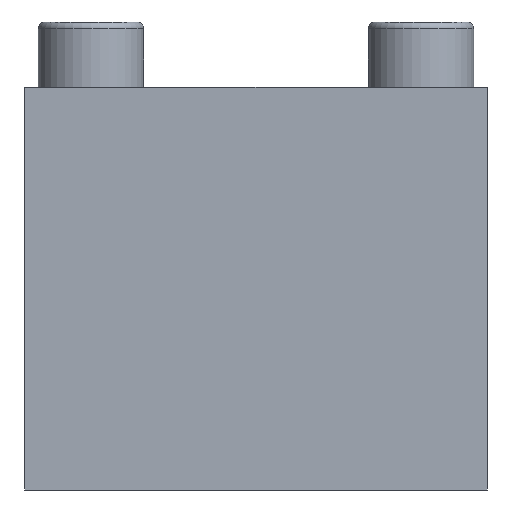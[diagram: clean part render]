
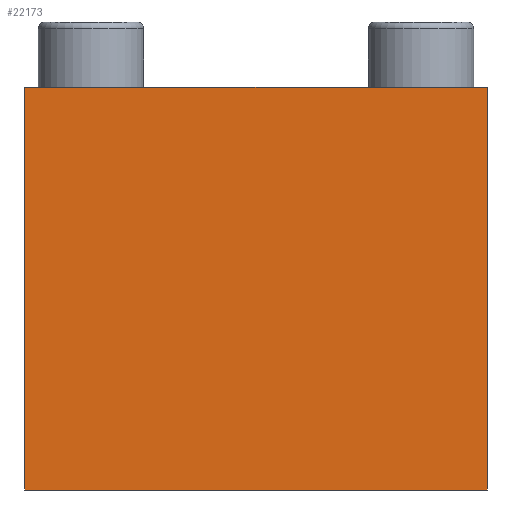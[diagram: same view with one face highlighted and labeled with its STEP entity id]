
A CAD part, front view. The second image highlights one B-rep face of the part: STEP entity #22173.
In plain terms, the highlighted planar face has unit normal (0, -1, 0).
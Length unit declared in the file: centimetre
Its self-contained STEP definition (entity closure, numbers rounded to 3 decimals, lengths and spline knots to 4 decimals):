
#2285=FACE_OUTER_BOUND('',#3461,.T.);
#3461=EDGE_LOOP('',(#15025,#15026,#15027,#15028));
#4765=LINE('',#28554,#7249);
#4769=LINE('',#28563,#7253);
#4770=LINE('',#28564,#7254);
#4771=LINE('',#28565,#7255);
#7249=VECTOR('',#24263,6.1);
#7253=VECTOR('',#24269,6.1);
#7254=VECTOR('',#24270,7.);
#7255=VECTOR('',#24271,7.);
#9763=VERTEX_POINT('',#28552);
#9764=VERTEX_POINT('',#28553);
#9767=VERTEX_POINT('',#28561);
#9768=VERTEX_POINT('',#28562);
#11869=EDGE_CURVE('',#9763,#9764,#4765,.T.);
#11873=EDGE_CURVE('',#9767,#9768,#4769,.T.);
#11874=EDGE_CURVE('',#9763,#9767,#4770,.T.);
#11875=EDGE_CURVE('',#9768,#9764,#4771,.T.);
#15025=ORIENTED_EDGE('',*,*,#11873,.F.);
#15026=ORIENTED_EDGE('',*,*,#11874,.F.);
#15027=ORIENTED_EDGE('',*,*,#11869,.T.);
#15028=ORIENTED_EDGE('',*,*,#11875,.F.);
#21323=PLANE('',#23353);
#22173=ADVANCED_FACE('',(#2285),#21323,.T.);
#23353=AXIS2_PLACEMENT_3D('',#28560,#24267,#24268);
#24263=DIRECTION('',(0.,0.,-1.));
#24267=DIRECTION('center_axis',(0.,-1.,0.));
#24268=DIRECTION('ref_axis',(-1.,0.,0.));
#24269=DIRECTION('',(0.,0.,-1.));
#24270=DIRECTION('',(1.,0.,0.));
#24271=DIRECTION('',(-1.,0.,0.));
#28552=CARTESIAN_POINT('',(-3.5,-7.,4.85));
#28553=CARTESIAN_POINT('',(-3.5,-7.,-1.25));
#28554=CARTESIAN_POINT('',(-3.5,-7.,0.));
#28560=CARTESIAN_POINT('Origin',(3.5,-7.,3.6));
#28561=CARTESIAN_POINT('',(3.5,-7.,4.85));
#28562=CARTESIAN_POINT('',(3.5,-7.,-1.25));
#28563=CARTESIAN_POINT('',(3.5,-7.,0.));
#28564=CARTESIAN_POINT('',(3.5,-7.,4.85));
#28565=CARTESIAN_POINT('',(3.5,-7.,-1.25));
